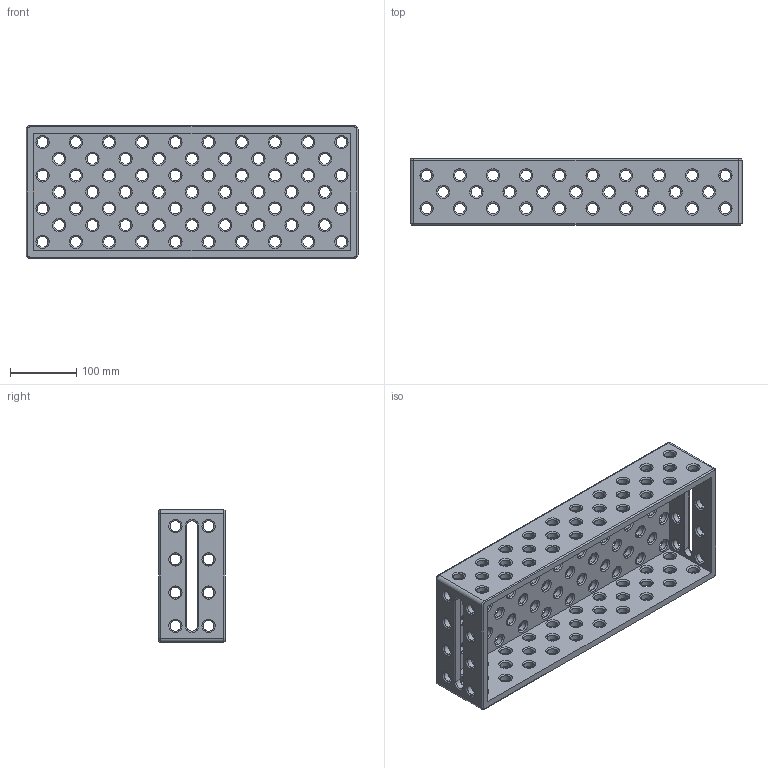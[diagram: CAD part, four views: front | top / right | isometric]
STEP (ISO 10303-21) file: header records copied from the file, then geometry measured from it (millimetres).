
FILE_DESCRIPTION (( 'STEP AP203' ), '1' );
FILE_NAME ('160360.1_500x200x100.step', '2014-08-11T15:31:08', ( 'User' ), ( '' ), 'SwSTEP 2.0', 'SolidWorks 2014', '' );
FILE_SCHEMA (( 'CONFIG_CONTROL_DESIGN' ));
Length unit declared in the file: millimetre
Products named in the file (1): 160360.1_500x200x100
Bounding box: 500 x 100 x 200 mm (x, y, z)
Volume: 2189881.1 mm3; surface area: 461898.6 mm2
Topology: 1 solids, 1 shells, 905 faces, 2110 edges, 1208 vertices
Faces by surface type: cylinder 298, cone 294, torus 290, plane 23
Entity records: 26551 total; most frequent: DIRECTION 5388, CARTESIAN_POINT 4224, ORIENTED_EDGE 4220, AXIS2_PLACEMENT_3D 2372, EDGE_CURVE 2110, CIRCLE 1466, VERTEX_POINT 1208, EDGE_LOOP 1192
